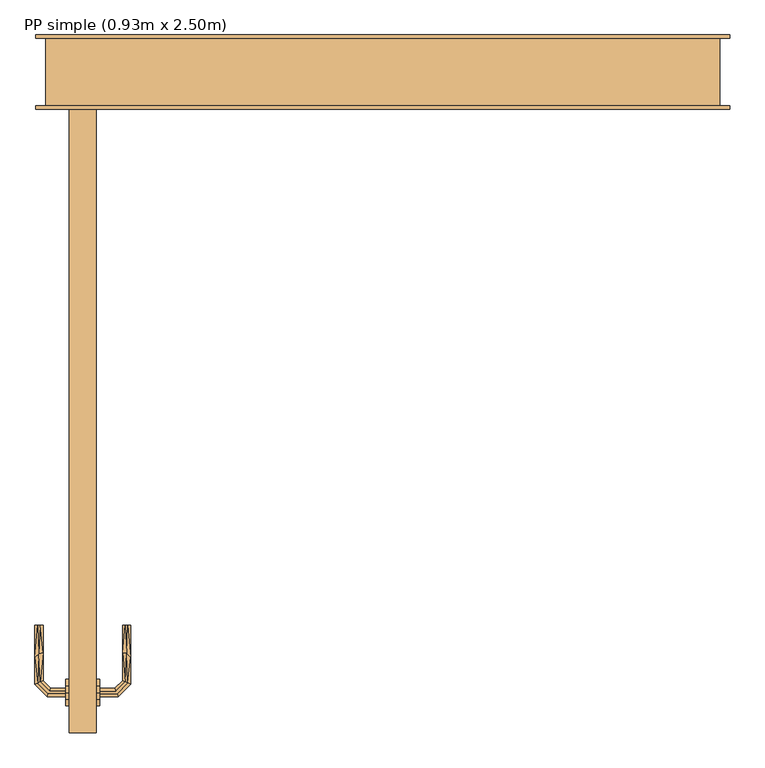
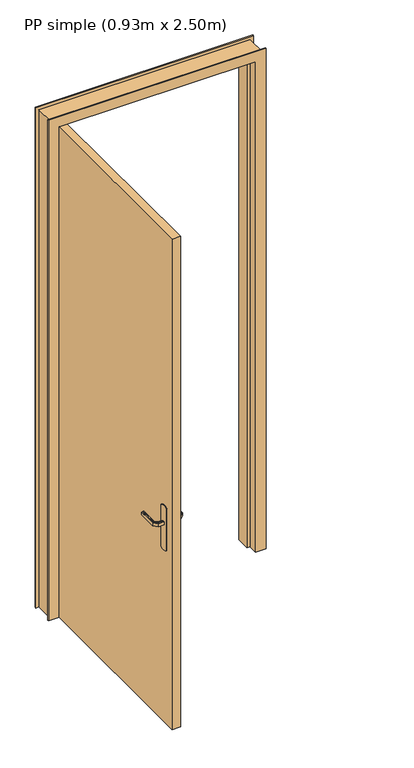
"""IFC4 building model written with IfcOpenShell, lengths in millimetres: door geometry, PP simple (0.93m x 2.50m)."""

from ifc_helpers import new_model, si_unit, frame, origin, origin_with_axes, place, context, project, spatial, polyline, outline, extrude, faceted_brep, source, transform, mapped, element, save


def pp_simple_0_93m_x_2_50m_a8bbe72d(model_context):
    return source(origin(), model_context, "Body", "SolidModel", [
        faceted_brep([(100.0, -867.9747013, 1007.7804408), (100.0, -872.0252987, 1007.7804408), (100.0, -876.0, 1007.0), (100.0, -876.0, 993.0), (100.0, -872.0252987, 992.2195592), (100.0, -867.9747013, 992.2195592), (100.0, -864.0, 993.0), (100.0, -864.0, 1007.0), (73.9954245, -872.0252987, 1007.7804408), (72.3490493, -876.0, 1007.0), (75.6732368, -867.9747013, 1007.7804408), (61.997138, -854.2986025, 1007.7804408), (57.9465407, -855.9764148, 1007.7804408), (77.319612, -864.0, 1007.0), (77.319612, -864.0, 993.0), (75.6732368, -867.9747013, 992.2195592), (73.9954245, -872.0252987, 992.2195592), (57.9465407, -855.9764148, 992.2195592), (61.997138, -854.2986025, 992.2195592), (72.3490493, -876.0, 993.0), (53.9718393, -857.62279, 1007.0), (65.9718393, -852.6522273, 1007.0), (65.9718393, -852.6522273, 993.0), (53.9718393, -857.62279, 993.0), (53.9718393, -769.9813594, 1007.0), (57.9465407, -769.9813594, 1007.7804408), (61.997138, -769.9813594, 1007.7804408), (65.9718393, -769.9813594, 1007.0), (65.9718393, -769.9813594, 993.0), (61.997138, -769.9813594, 992.2195592), (57.9465407, -769.9813594, 992.2195592), (53.9718393, -769.9813594, 993.0), (59.9718393, -812.1399809, 1007.8786868), (53.9718393, -817.6923028, 1007.0), (65.9718393, -811.3167933, 1007.0), (65.9718393, -811.3167933, 993.0), (59.9718392, -812.1399811, 992.1213132), (53.9718393, -817.6923104, 993.0)], [[[0, 1, 2, 3, 4, 5, 6, 7]], [[2, 1, 8, 9]], [[1, 0, 10, 11, 12, 8]], [[0, 7, 13, 10]], [[14, 13, 7, 6]], [[5, 15, 14, 6]], [[5, 4, 16, 17, 18, 15]], [[3, 19, 16, 4]], [[9, 19, 3, 2]], [[9, 8, 12, 20]], [[10, 13, 21, 11]], [[22, 21, 13, 14]], [[14, 15, 18, 22]], [[16, 19, 23, 17]], [[20, 23, 19, 9]], [[24, 25, 26, 27, 28, 29, 30, 31]], [[32, 25, 33]], [[33, 25, 24]], [[33, 20, 12]], [[11, 34, 32]], [[34, 11, 21]], [[27, 26, 34]], [[32, 26, 25]], [[32, 34, 26]], [[32, 33, 12]], [[11, 32, 12]], [[21, 22, 35, 28, 27, 34]], [[36, 29, 35]], [[30, 36, 37]], [[18, 35, 22]], [[29, 28, 35]], [[30, 37, 31]], [[37, 17, 23]], [[36, 17, 37]], [[36, 18, 17]], [[36, 35, 18]], [[29, 36, 30]], [[23, 20, 33, 24, 31, 37]]]),
        faceted_brep([(1070.0, 100.0, 0.0), (1070.0, 0.0, 0.0), (1085.0, 0.0, 0.0), (1085.0, -5.0, 0.0), (1035.0, -5.0, 0.0), (1035.0, 40.0, 0.0), (1020.0, 40.0, 0.0), (1020.0, 105.0, 0.0), (1085.0, 105.0, 0.0), (1085.0, 100.0, 0.0), (1070.0, 100.0, 2485.0), (1070.0, 0.0, 2485.0), (1085.0, 100.0, 2500.0), (55.0, 100.0, 2500.0), (55.0, 100.0, 0.0), (70.0, 100.0, 0.0), (70.0, 100.0, 2485.0), (1020.0, 40.0, 2435.0), (1020.0, 105.0, 2435.0), (1035.0, 40.0, 2450.0), (105.0, 40.0, 2450.0), (105.0, 40.0, 0.0), (120.0, 40.0, 0.0), (120.0, 40.0, 2435.0), (70.0, 0.0, 0.0), (70.0, 0.0, 2485.0), (55.0, 105.0, 0.0), (120.0, 105.0, 0.0), (105.0, -5.0, 0.0), (55.0, -5.0, 0.0), (55.0, 0.0, 0.0), (120.0, 105.0, 2435.0), (1035.0, -5.0, 2450.0), (1085.0, -5.0, 2500.0), (55.0, -5.0, 2500.0), (105.0, -5.0, 2450.0), (1085.0, 0.0, 2500.0), (55.0, 0.0, 2500.0), (1085.0, 105.0, 2500.0), (55.0, 105.0, 2500.0)], [[[0, 1, 2, 3, 4, 5, 6, 7, 8, 9]], [[0, 10, 11, 1]], [[9, 12, 13, 14, 15, 16, 10, 0]], [[7, 6, 17, 18]], [[5, 19, 20, 21, 22, 23, 17, 6]], [[16, 15, 24, 25]], [[15, 14, 26, 27, 22, 21, 28, 29, 30, 24]], [[23, 22, 27, 31]], [[10, 16, 25, 11]], [[17, 23, 31, 18]], [[5, 4, 32, 19]], [[3, 33, 34, 29, 28, 35, 32, 4]], [[2, 36, 33, 3]], [[1, 11, 25, 24, 30, 37, 36, 2]], [[8, 38, 12, 9]], [[7, 18, 31, 27, 26, 39, 38, 8]], [[35, 28, 21, 20]], [[37, 30, 29, 34]], [[39, 26, 14, 13]], [[32, 35, 20, 19]], [[36, 37, 34, 33]], [[38, 39, 13, 12]]]),
        extrude(outline(polyline([(145.0, -930.0), (105.0, -930.0), (105.0, 0.0), (145.0, 0.0), (145.0, -930.0)])), origin_with_axes(), (0.0, 0.0, 1.0), 2450.0),
        extrude(outline(polyline([(-890.0, 870.0), (-890.0, 1080.0), (-880.3527618, 1083.9960169), (-870.0, 1085.3589838), (-859.6472382, 1083.9960169), (-850.0, 1080.0), (-850.0, 870.0), (-859.6472382, 866.0039831), (-870.0, 864.6410162), (-880.3527618, 866.0039831), (-890.0, 870.0)])), frame((100.0, 0.0, 0.0), z_axis=(1.0, 0.0, 0.0), x_axis=(0.0, 1.0, 0.0)), (0.0, 0.0, 1.0), 5.0),
        faceted_brep([(150.0, -867.9747013, 992.2195592), (150.0, -872.0252987, 992.2195592), (150.0, -876.0, 993.0), (150.0, -876.0, 1007.0), (150.0, -872.0252987, 1007.7804408), (150.0, -867.9747013, 1007.7804408), (150.0, -864.0, 1007.0), (150.0, -864.0, 993.0), (172.4852045, -864.0, 1007.0), (172.4852045, -864.0, 993.0), (174.1315797, -867.9747013, 1007.7804408), (175.8093921, -872.0252987, 1007.7804408), (191.9957845, -855.8389062, 1007.7804408), (187.9451872, -854.1610938, 1007.7804408), (177.4557673, -876.0, 1007.0), (177.4557673, -876.0, 993.0), (175.8093921, -872.0252987, 992.2195592), (174.1315797, -867.9747013, 992.2195592), (187.9451872, -854.1610938, 992.2195592), (191.9957845, -855.8389062, 992.2195592), (183.9704859, -852.5147186, 1007.0), (183.9704859, -852.5147186, 993.0), (195.9704859, -857.4852814, 1007.0), (195.9704859, -857.4852814, 993.0), (187.9451872, -769.9542163, 1007.7804408), (191.9957845, -769.9542163, 1007.7804408), (195.9704859, -769.9542163, 1007.0), (195.9704859, -769.9542163, 993.0), (191.9957845, -769.9542163, 992.2195592), (187.9451872, -769.9542163, 992.2195592), (183.9704859, -769.9542163, 993.0), (183.9704859, -769.9542163, 1007.0), (183.9704859, -811.2344675, 1007.0), (183.9704859, -811.2344794, 993.0), (189.9704859, -812.0576551, 1007.8786868), (195.9704859, -817.5547942, 1007.0), (195.9704859, -817.5547957, 993.0), (189.9704858, -812.0576549, 992.1213132)], [[[0, 1, 2, 3, 4, 5, 6, 7]], [[8, 9, 7, 6]], [[5, 10, 8, 6]], [[5, 4, 11, 12, 13, 10]], [[3, 14, 11, 4]], [[14, 3, 2, 15]], [[2, 1, 16, 15]], [[1, 0, 17, 18, 19, 16]], [[0, 7, 9, 17]], [[20, 21, 9, 8]], [[8, 10, 13, 20]], [[14, 22, 12, 11]], [[23, 22, 14, 15]], [[15, 16, 19, 23]], [[17, 9, 21, 18]], [[24, 25, 26, 27, 28, 29, 30, 31]], [[21, 20, 32, 31, 30, 33]], [[34, 24, 32]], [[25, 34, 35]], [[13, 32, 20]], [[24, 31, 32]], [[25, 35, 26]], [[35, 12, 22]], [[34, 12, 35]], [[34, 13, 12]], [[34, 32, 13]], [[24, 34, 25]], [[22, 23, 36, 27, 26, 35]], [[37, 28, 36]], [[36, 28, 27]], [[36, 23, 19]], [[18, 33, 37]], [[33, 18, 21]], [[30, 29, 33]], [[37, 29, 28]], [[37, 33, 29]], [[37, 36, 19]], [[18, 37, 19]]]),
        extrude(outline(polyline([(-890.0, 870.0), (-890.0, 1080.0), (-880.3527618, 1083.9960169), (-870.0, 1085.3589838), (-859.6472382, 1083.9960169), (-850.0, 1080.0), (-850.0, 870.0), (-859.6472382, 866.0039831), (-870.0, 864.6410162), (-880.3527618, 866.0039831), (-890.0, 870.0)])), frame((145.0, 0.0, 0.0), z_axis=(1.0, 0.0, 0.0), x_axis=(0.0, 1.0, 0.0)), (0.0, 0.0, 1.0), 5.0),
    ])


if __name__ == "__main__":
    model = new_model("IFC4")
    model_context = context("Model", 3, world=origin())
    ifc_project = project(units=[si_unit("LENGTHUNIT", "METRE", prefix="MILLI")], contexts=[model_context])
    site = spatial("IfcSite", under=ifc_project)
    building = spatial("IfcBuilding", under=site)
    placement = place(None, origin())
    pp_simple_0_93m_x_2_50m_shape = pp_simple_0_93m_x_2_50m_a8bbe72d(model_context)
    element("IfcDoor", 1, ObjectType="PP simple (0.93m x 2.50m)", at=placement, inside=building, context=model_context, shape_type="MappedRepresentation", body=[
        mapped(pp_simple_0_93m_x_2_50m_shape, transform((0.0, 0.0, 0.0), x_axis=(1.0, 0.0, 0.0), y_axis=(0.0, 1.0, 0.0), z_axis=(0.0, 0.0, 1.0))),
    ])
    save(model, "model.ifc")
